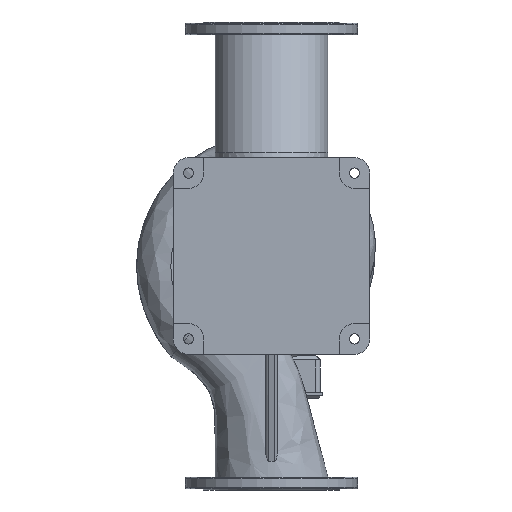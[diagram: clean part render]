
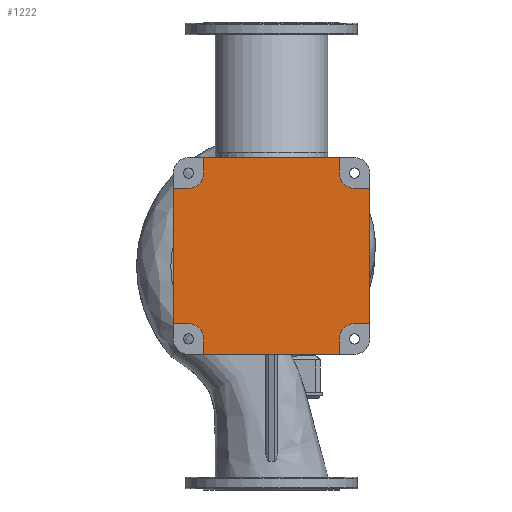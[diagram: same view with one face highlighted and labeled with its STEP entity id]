
A CAD part, front view. The second image highlights one B-rep face of the part: STEP entity #1222.
In plain terms, the highlighted planar face has unit normal (0, -1, 0).
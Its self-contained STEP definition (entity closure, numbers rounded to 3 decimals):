
#9 = CARTESIAN_POINT ( 'NONE',  ( 159., -295., -195. ) ) ;
#280 = VECTOR ( 'NONE', #29151, 1000. ) ;
#289 = CARTESIAN_POINT ( 'NONE',  ( -159., -295., 195. ) ) ;
#588 = DIRECTION ( 'NONE',  ( 0., 0., 1. ) ) ;
#1013 = ORIENTED_EDGE ( 'NONE', *, *, #23123, .T. ) ;
#1125 = DIRECTION ( 'NONE',  ( -1., 0., 0. ) ) ;
#1222 = ADVANCED_FACE ( 'NONE', ( #31775 ), #26218, .F. ) ;
#1432 = CIRCLE ( 'NONE', #21461, 36. ) ;
#1678 = DIRECTION ( 'NONE',  ( 0., 0., 1. ) ) ;
#2442 = CARTESIAN_POINT ( 'NONE',  ( -159., -295., -231. ) ) ;
#2594 = CARTESIAN_POINT ( 'NONE',  ( 195., -295., 195. ) ) ;
#2711 = VERTEX_POINT ( 'NONE', #4273 ) ;
#3361 = ORIENTED_EDGE ( 'NONE', *, *, #33873, .T. ) ;
#3580 = EDGE_CURVE ( 'NONE', #2711, #26632, #17038, .T. ) ;
#3584 = VECTOR ( 'NONE', #14538, 1000. ) ;
#3731 = VERTEX_POINT ( 'NONE', #10705 ) ;
#4108 = EDGE_CURVE ( 'NONE', #3731, #34423, #34687, .T. ) ;
#4273 = CARTESIAN_POINT ( 'NONE',  ( 231., -295., 159. ) ) ;
#4388 = DIRECTION ( 'NONE',  ( 1., 0., 0. ) ) ;
#4780 = CIRCLE ( 'NONE', #16217, 36. ) ;
#5147 = CARTESIAN_POINT ( 'NONE',  ( -231., -295., -159. ) ) ;
#5586 = DIRECTION ( 'NONE',  ( 0., 0., 1. ) ) ;
#5974 = VECTOR ( 'NONE', #5586, 1000. ) ;
#7391 = VERTEX_POINT ( 'NONE', #17569 ) ;
#7439 = CARTESIAN_POINT ( 'NONE',  ( -159., -295., 195. ) ) ;
#7622 = DIRECTION ( 'NONE',  ( 1., 0., 0. ) ) ;
#7957 = VERTEX_POINT ( 'NONE', #7439 ) ;
#8604 = DIRECTION ( 'NONE',  ( 0., 1., 0. ) ) ;
#8856 = DIRECTION ( 'NONE',  ( -1., 0., 0. ) ) ;
#9150 = VERTEX_POINT ( 'NONE', #19506 ) ;
#9193 = LINE ( 'NONE', #14749, #34454 ) ;
#9546 = EDGE_CURVE ( 'NONE', #7391, #7957, #32898, .T. ) ;
#9979 = CARTESIAN_POINT ( 'NONE',  ( 159., -295., -231. ) ) ;
#10497 = VECTOR ( 'NONE', #11227, 1000. ) ;
#10705 = CARTESIAN_POINT ( 'NONE',  ( -231., -295., -159. ) ) ;
#10736 = ORIENTED_EDGE ( 'NONE', *, *, #19485, .T. ) ;
#10861 = EDGE_CURVE ( 'NONE', #9150, #3731, #24123, .T. ) ;
#10906 = LINE ( 'NONE', #25046, #14205 ) ;
#10942 = LINE ( 'NONE', #9, #5974 ) ;
#11227 = DIRECTION ( 'NONE',  ( 0., 0., -1. ) ) ;
#11438 = DIRECTION ( 'NONE',  ( 0., 0., 1. ) ) ;
#11748 = CARTESIAN_POINT ( 'NONE',  ( 195., -295., -159. ) ) ;
#12286 = CARTESIAN_POINT ( 'NONE',  ( 231., -295., 159. ) ) ;
#12403 = LINE ( 'NONE', #22785, #3584 ) ;
#12546 = VERTEX_POINT ( 'NONE', #30372 ) ;
#12800 = CARTESIAN_POINT ( 'NONE',  ( -195., -295., 195. ) ) ;
#13460 = ORIENTED_EDGE ( 'NONE', *, *, #17085, .T. ) ;
#13632 = ORIENTED_EDGE ( 'NONE', *, *, #10861, .T. ) ;
#14034 = ORIENTED_EDGE ( 'NONE', *, *, #4108, .T. ) ;
#14205 = VECTOR ( 'NONE', #11438, 1000. ) ;
#14350 = ORIENTED_EDGE ( 'NONE', *, *, #16454, .T. ) ;
#14538 = DIRECTION ( 'NONE',  ( 0., 0., -1. ) ) ;
#14704 = CARTESIAN_POINT ( 'NONE',  ( 195., -295., 159. ) ) ;
#14749 = CARTESIAN_POINT ( 'NONE',  ( -195., -295., 159. ) ) ;
#14929 = DIRECTION ( 'NONE',  ( 0., 1., 0. ) ) ;
#14946 = DIRECTION ( 'NONE',  ( 0., 0., 1. ) ) ;
#14951 = VERTEX_POINT ( 'NONE', #16610 ) ;
#15273 = ORIENTED_EDGE ( 'NONE', *, *, #22871, .T. ) ;
#15355 = VERTEX_POINT ( 'NONE', #9979 ) ;
#15782 = CARTESIAN_POINT ( 'NONE',  ( 195., -295., 159. ) ) ;
#15837 = ORIENTED_EDGE ( 'NONE', *, *, #27594, .T. ) ;
#16217 = AXIS2_PLACEMENT_3D ( 'NONE', #18919, #29490, #21253 ) ;
#16427 = CARTESIAN_POINT ( 'NONE',  ( -195., -295., 159. ) ) ;
#16454 = EDGE_CURVE ( 'NONE', #14951, #33554, #12403, .T. ) ;
#16585 = VECTOR ( 'NONE', #7622, 1000. ) ;
#16610 = CARTESIAN_POINT ( 'NONE',  ( -159., -295., -195. ) ) ;
#17038 = LINE ( 'NONE', #14704, #26878 ) ;
#17085 = EDGE_CURVE ( 'NONE', #33270, #12546, #4780, .T. ) ;
#17292 = DIRECTION ( 'NONE',  ( 1., 0., 0. ) ) ;
#17334 = EDGE_CURVE ( 'NONE', #7957, #34349, #28802, .T. ) ;
#17569 = CARTESIAN_POINT ( 'NONE',  ( -159., -295., 231. ) ) ;
#18444 = EDGE_CURVE ( 'NONE', #15355, #33270, #10942, .T. ) ;
#18919 = CARTESIAN_POINT ( 'NONE',  ( 195., -295., -195. ) ) ;
#19485 = EDGE_CURVE ( 'NONE', #12546, #23996, #25535, .T. ) ;
#19506 = CARTESIAN_POINT ( 'NONE',  ( -231., -295., 159. ) ) ;
#19781 = CARTESIAN_POINT ( 'NONE',  ( -159., -295., 231. ) ) ;
#20054 = CARTESIAN_POINT ( 'NONE',  ( -195., -295., -195. ) ) ;
#20332 = CARTESIAN_POINT ( 'NONE',  ( 159., -295., -231. ) ) ;
#20899 = VECTOR ( 'NONE', #8856, 1000. ) ;
#21253 = DIRECTION ( 'NONE',  ( 0., 0., 1. ) ) ;
#21461 = AXIS2_PLACEMENT_3D ( 'NONE', #20054, #8604, #30963 ) ;
#21647 = ORIENTED_EDGE ( 'NONE', *, *, #22461, .T. ) ;
#22241 = CIRCLE ( 'NONE', #26814, 36. ) ;
#22461 = EDGE_CURVE ( 'NONE', #31013, #32631, #10906, .T. ) ;
#22785 = CARTESIAN_POINT ( 'NONE',  ( -159., -295., -195. ) ) ;
#22871 = EDGE_CURVE ( 'NONE', #26632, #31013, #22241, .T. ) ;
#23123 = EDGE_CURVE ( 'NONE', #34349, #9150, #9193, .T. ) ;
#23218 = DIRECTION ( 'NONE',  ( 0., 0., 1. ) ) ;
#23396 = LINE ( 'NONE', #12286, #27107 ) ;
#23535 = CARTESIAN_POINT ( 'NONE',  ( -195., -295., -195. ) ) ;
#23996 = VERTEX_POINT ( 'NONE', #34819 ) ;
#24123 = LINE ( 'NONE', #5147, #280 ) ;
#24596 = ORIENTED_EDGE ( 'NONE', *, *, #9546, .T. ) ;
#25046 = CARTESIAN_POINT ( 'NONE',  ( 159., -295., 195. ) ) ;
#25130 = DIRECTION ( 'NONE',  ( 0., 1., 0. ) ) ;
#25535 = LINE ( 'NONE', #11748, #26665 ) ;
#25687 = LINE ( 'NONE', #20332, #25950 ) ;
#25950 = VECTOR ( 'NONE', #4388, 1000. ) ;
#26095 = CARTESIAN_POINT ( 'NONE',  ( 159., -295., 195. ) ) ;
#26218 = PLANE ( 'NONE',  #35089 ) ;
#26632 = VERTEX_POINT ( 'NONE', #15782 ) ;
#26665 = VECTOR ( 'NONE', #17292, 1000. ) ;
#26814 = AXIS2_PLACEMENT_3D ( 'NONE', #2594, #25130, #588 ) ;
#26878 = VECTOR ( 'NONE', #27953, 1000. ) ;
#27107 = VECTOR ( 'NONE', #23218, 1000. ) ;
#27594 = EDGE_CURVE ( 'NONE', #33554, #15355, #25687, .T. ) ;
#27953 = DIRECTION ( 'NONE',  ( -1., 0., 0. ) ) ;
#28566 = DIRECTION ( 'NONE',  ( 0., 1., 0. ) ) ;
#28802 = CIRCLE ( 'NONE', #29354, 36. ) ;
#28923 = ORIENTED_EDGE ( 'NONE', *, *, #34934, .T. ) ;
#28940 = CARTESIAN_POINT ( 'NONE',  ( -195., -295., -159. ) ) ;
#29151 = DIRECTION ( 'NONE',  ( 0., 0., -1. ) ) ;
#29338 = EDGE_CURVE ( 'NONE', #34423, #14951, #1432, .T. ) ;
#29354 = AXIS2_PLACEMENT_3D ( 'NONE', #12800, #28566, #14946 ) ;
#29490 = DIRECTION ( 'NONE',  ( 0., 1., 0. ) ) ;
#29626 = CARTESIAN_POINT ( 'NONE',  ( 159., -295., 231. ) ) ;
#30372 = CARTESIAN_POINT ( 'NONE',  ( 195., -295., -159. ) ) ;
#30963 = DIRECTION ( 'NONE',  ( 0., 0., 1. ) ) ;
#31013 = VERTEX_POINT ( 'NONE', #26095 ) ;
#31775 = FACE_OUTER_BOUND ( 'NONE', #31928, .T. ) ;
#31928 = EDGE_LOOP ( 'NONE', ( #33579, #14350, #15837, #33586, #13460, #10736, #3361, #34842, #15273, #21647, #28923, #24596, #35094, #1013, #13632, #14034 ) ) ;
#32186 = CARTESIAN_POINT ( 'NONE',  ( 159., -295., -195. ) ) ;
#32631 = VERTEX_POINT ( 'NONE', #29626 ) ;
#32853 = LINE ( 'NONE', #19781, #20899 ) ;
#32898 = LINE ( 'NONE', #289, #10497 ) ;
#32901 = CARTESIAN_POINT ( 'NONE',  ( -195., -295., -159. ) ) ;
#33270 = VERTEX_POINT ( 'NONE', #32186 ) ;
#33554 = VERTEX_POINT ( 'NONE', #2442 ) ;
#33579 = ORIENTED_EDGE ( 'NONE', *, *, #29338, .T. ) ;
#33586 = ORIENTED_EDGE ( 'NONE', *, *, #18444, .T. ) ;
#33873 = EDGE_CURVE ( 'NONE', #23996, #2711, #23396, .T. ) ;
#34349 = VERTEX_POINT ( 'NONE', #16427 ) ;
#34423 = VERTEX_POINT ( 'NONE', #32901 ) ;
#34454 = VECTOR ( 'NONE', #1125, 1000. ) ;
#34687 = LINE ( 'NONE', #28940, #16585 ) ;
#34819 = CARTESIAN_POINT ( 'NONE',  ( 231., -295., -159. ) ) ;
#34842 = ORIENTED_EDGE ( 'NONE', *, *, #3580, .T. ) ;
#34934 = EDGE_CURVE ( 'NONE', #32631, #7391, #32853, .T. ) ;
#35089 = AXIS2_PLACEMENT_3D ( 'NONE', #23535, #14929, #1678 ) ;
#35094 = ORIENTED_EDGE ( 'NONE', *, *, #17334, .T. ) ;
